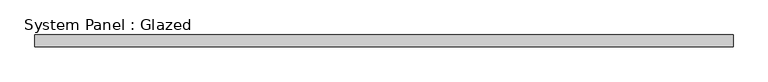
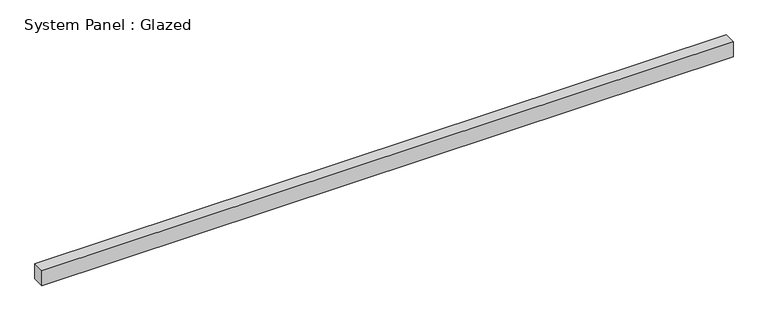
"""IFC4 building model written with IfcOpenShell, lengths in millimetres: plate geometry, System Panel : Glazed."""

from ifc_helpers import new_model, si_unit, origin, origin_with_axes, place, context, project, spatial, polyline, outline, extrude, source, transform, mapped, element, save


def system_panel_glazed_378a796b(model_context):
    return source(origin(), model_context, "Body", "SweptSolid", [
        extrude(outline(polyline([(724.5000001, -49.5), (-724.5000001, -49.5), (-724.5000001, -24.5), (724.5000001, -24.5), (724.5000001, -49.5)])), origin_with_axes(), (0.0, 0.0, 1.0), 33.25),
    ])


if __name__ == "__main__":
    model = new_model("IFC4")
    model_context = context("Model", 3, world=origin())
    ifc_project = project(units=[si_unit("LENGTHUNIT", "METRE", prefix="MILLI")], contexts=[model_context])
    site = spatial("IfcSite", under=ifc_project)
    building = spatial("IfcBuilding", under=site)
    placement = place(None, origin())
    system_panel_glazed_shape = system_panel_glazed_378a796b(model_context)
    element("IfcPlate", 1, ObjectType="System Panel : Glazed", at=placement, inside=building, context=model_context, shape_type="MappedRepresentation", body=[
        mapped(system_panel_glazed_shape, transform((0.0, 0.0, 0.0), x_axis=(1.0, 0.0, 0.0), y_axis=(0.0, 1.0, 0.0), z_axis=(0.0, 0.0, 1.0))),
    ])
    save(model, "model.ifc")
